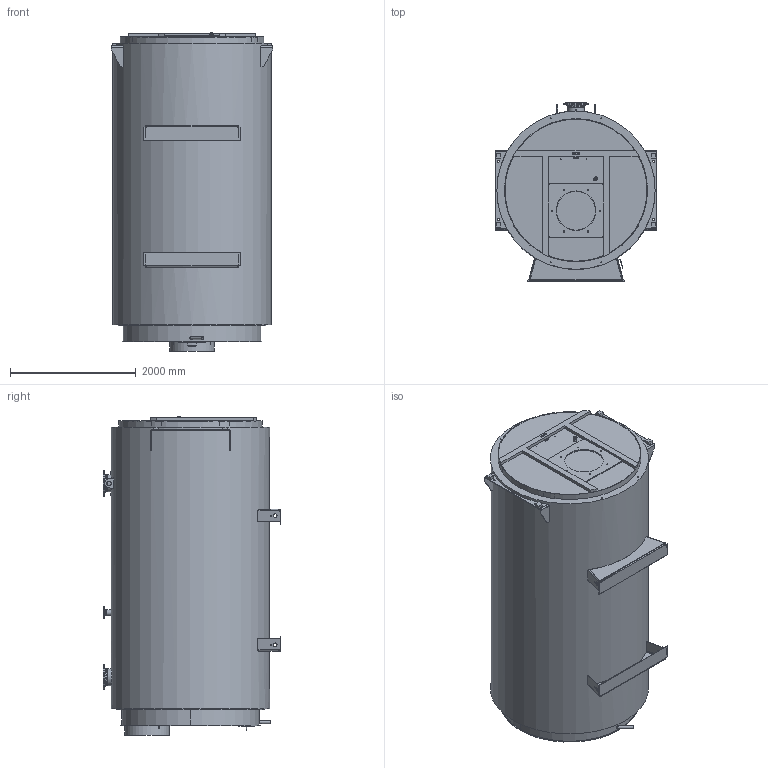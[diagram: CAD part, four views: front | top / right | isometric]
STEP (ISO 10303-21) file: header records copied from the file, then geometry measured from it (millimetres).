
FILE_DESCRIPTION(('TFLEX Exchange Step'),'2;1');
FILE_NAME('M22A02B_7632990_T001.stp', '2024-08-09T15:33:14+03:00',('kort'),('Unknown organisation'),'TFLEX Exchange 2024.2','T-FLEX CAD','Unknown authorisation');
FILE_SCHEMA( ('AP242_MANAGED_MODEL_BASED_3D_ENGINEERING_MIM_LF {1 0 10303 442 1 1 4 }') );
Length unit declared in the file: millimetre
Products named in the file (1): Assembly
Bounding box: 2565 x 2830 x 5072.64 mm (x, y, z)
Volume: 24691382907.7 mm3; surface area: 310885397 mm2
Topology: 123 solids, 123 shells, 1451 faces, 3486 edges, 2340 vertices
Faces by surface type: plane 769, cylinder 477, bspline 106, cone 76, torus 19, sphere 4
Full cylindrical faces by diameter (mm): 1 x16, 2.2 x4, 3 x2, 3.2 x4, 3.3 x4, 4 x4, 6.5 x4, 10 x9, 11.45 x1, 12 x12, 13 x4, 13.84 x6, 14 x4, 14.63 x6, 16 x4, 18 x8, 22 x6, 24 x4, 26 x24, 32 x4, 35 x3, 40 x2, 41.1 x1, 41.45 x1, 44.8 x1, 45 x4, 47.8 x1, 48 x1, 48.3 x1, 60 x4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
Entity records: 342817 total; most frequent: CARTESIAN_POINT 306716, DIRECTION 7109, ORIENTED_EDGE 6920, EDGE_CURVE 3460, AXIS2_PLACEMENT_3D 2634, VERTEX_POINT 2340, VECTOR 1841, LINE 1841
